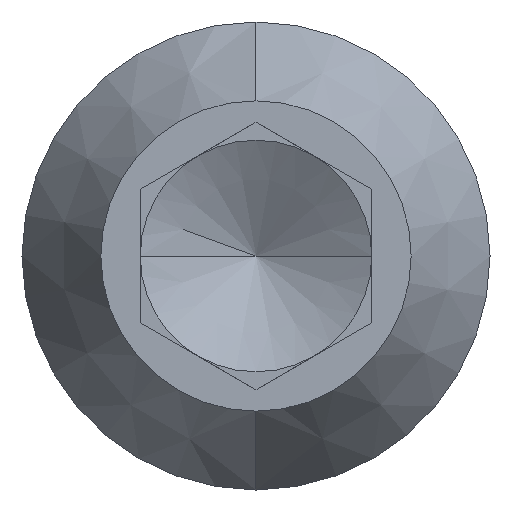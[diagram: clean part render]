
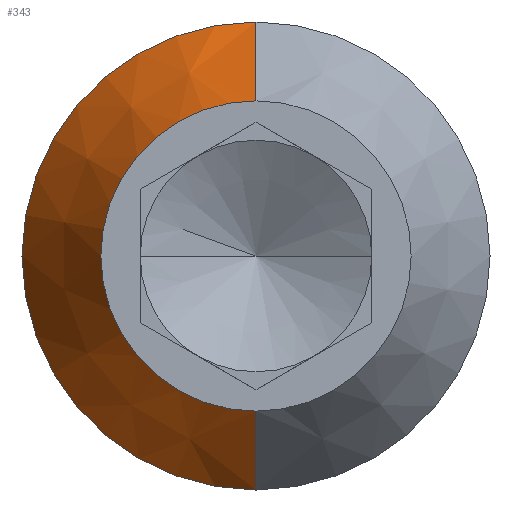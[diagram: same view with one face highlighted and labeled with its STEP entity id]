
A CAD part, left-side view. The second image highlights one B-rep face of the part: STEP entity #343.
In plain terms, the highlighted conical face has half-angle 30 degrees and reference radius 2.413 mm.
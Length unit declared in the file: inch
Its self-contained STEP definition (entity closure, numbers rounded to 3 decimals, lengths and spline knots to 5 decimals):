
#266 = VERTEX_POINT ( 'NONE', #810 ) ;
#267 = VERTEX_POINT ( 'NONE', #806 ) ;
#268 = ORIENTED_EDGE ( 'NONE', *, *, #269, .T. ) ;
#269 = EDGE_CURVE ( 'NONE', #266, #270, #805, .T. ) ;
#270 = VERTEX_POINT ( 'NONE', #801 ) ;
#271 = ORIENTED_EDGE ( 'NONE', *, *, #272, .F. ) ;
#272 = EDGE_CURVE ( 'NONE', #273, #270, #800, .T. ) ;
#273 = VERTEX_POINT ( 'NONE', #795 ) ;
#328 = ORIENTED_EDGE ( 'NONE', *, *, #329, .F. ) ;
#329 = EDGE_CURVE ( 'NONE', #267, #273, #935, .T. ) ;
#343 = ADVANCED_FACE ( 'NONE', ( #967 ), #966, .T. ) ;
#344 = EDGE_LOOP ( 'NONE', ( #345, #268, #271, #328 ) ) ;
#345 = ORIENTED_EDGE ( 'NONE', *, *, #346, .F. ) ;
#346 = EDGE_CURVE ( 'NONE', #266, #267, #964, .T. ) ;
#795 = CARTESIAN_POINT ( 'NONE',  ( 0.05543, 0., -0.095 ) ) ;
#796 = DIRECTION ( 'NONE',  ( 0., 0., -1. ) ) ;
#797 = DIRECTION ( 'NONE',  ( 1., 0., 0. ) ) ;
#798 = CARTESIAN_POINT ( 'NONE',  ( 0.05543, 0., 0. ) ) ;
#799 = AXIS2_PLACEMENT_3D ( 'NONE', #798, #797, #796 ) ;
#800 = CIRCLE ( 'NONE', #799, 0.095 ) ;
#801 = CARTESIAN_POINT ( 'NONE',  ( 0.05543, 0., 0.095 ) ) ;
#802 = DIRECTION ( 'NONE',  ( 0.866, 0., 0.5 ) ) ;
#803 = VECTOR ( 'NONE', #802, 39.37008 ) ;
#804 = CARTESIAN_POINT ( 'NONE',  ( 0.05543, 0., 0.095 ) ) ;
#805 = LINE ( 'NONE', #804, #803 ) ;
#806 = CARTESIAN_POINT ( 'NONE',  ( 0., 0., -0.063 ) ) ;
#810 = CARTESIAN_POINT ( 'NONE',  ( 0., 0., 0.063 ) ) ;
#932 = DIRECTION ( 'NONE',  ( 0.866, 0., -0.5 ) ) ;
#933 = VECTOR ( 'NONE', #932, 39.37008 ) ;
#934 = CARTESIAN_POINT ( 'NONE',  ( 0.05543, 0., -0.095 ) ) ;
#935 = LINE ( 'NONE', #934, #933 ) ;
#957 = DIRECTION ( 'NONE',  ( 0., 0., -1. ) ) ;
#958 = DIRECTION ( 'NONE',  ( -1., 0., 0. ) ) ;
#959 = CARTESIAN_POINT ( 'NONE',  ( 0., 0., 0. ) ) ;
#960 = AXIS2_PLACEMENT_3D ( 'NONE', #959, #958, #957 ) ;
#961 = DIRECTION ( 'NONE',  ( 0., 0., -1. ) ) ;
#962 = DIRECTION ( 'NONE',  ( 1., 0., 0. ) ) ;
#963 = AXIS2_PLACEMENT_3D ( 'NONE', #965, #962, #961 ) ;
#964 = CIRCLE ( 'NONE', #960, 0.063 ) ;
#965 = CARTESIAN_POINT ( 'NONE',  ( 0.05543, 0., 0. ) ) ;
#966 = CONICAL_SURFACE ( 'NONE', #963, 0.095, 0.524 ) ;
#967 = FACE_OUTER_BOUND ( 'NONE', #344, .T. ) ;
